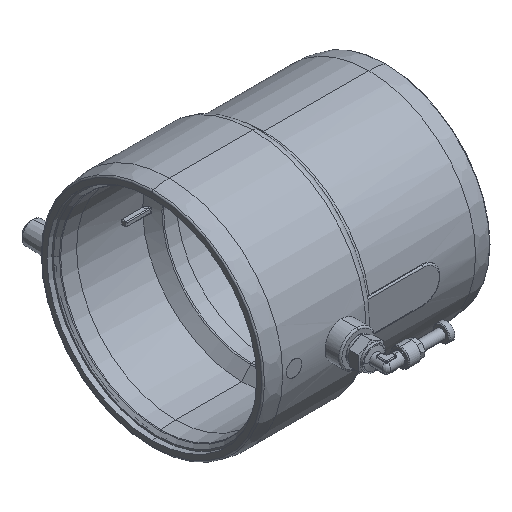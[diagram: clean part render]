
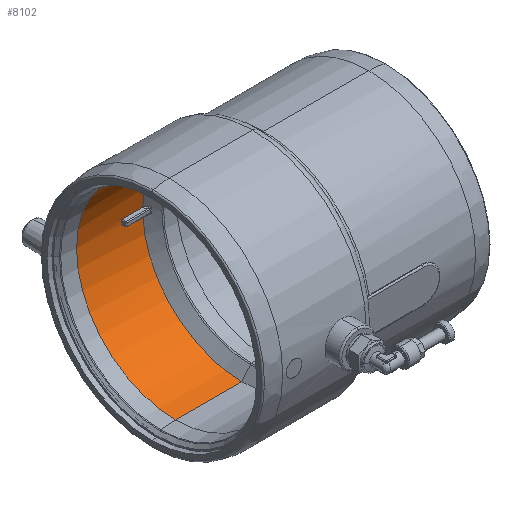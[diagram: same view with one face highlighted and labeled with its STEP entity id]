
A CAD part, isometric view. The second image highlights one B-rep face of the part: STEP entity #8102.
In plain terms, the highlighted cylindrical face has radius 62.85 mm (diameter 125.7 mm), a partial arc.
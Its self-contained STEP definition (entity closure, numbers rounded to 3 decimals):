
#847 = CARTESIAN_POINT ( 'NONE',  ( -34.102, 62.842, -1. ) ) ;
#1153 = AXIS2_PLACEMENT_3D ( 'NONE', #14543, #21457, #9324 ) ;
#1158 = CARTESIAN_POINT ( 'NONE',  ( -33.863, 62.833, -1.446 ) ) ;
#1755 = CARTESIAN_POINT ( 'NONE',  ( -34.048, 62.837, 1.261 ) ) ;
#1910 = CARTESIAN_POINT ( 'NONE',  ( -34.102, 62.842, 1. ) ) ;
#1919 = AXIS2_PLACEMENT_3D ( 'NONE', #18384, #30481, #8771 ) ;
#1984 = CARTESIAN_POINT ( 'NONE',  ( -34.102, 62.842, -1. ) ) ;
#2382 = ORIENTED_EDGE ( 'NONE', *, *, #18978, .T. ) ;
#2450 = EDGE_CURVE ( 'NONE', #16332, #21116, #20752, .T. ) ;
#2506 = DIRECTION ( 'NONE',  ( 0., 0., 1. ) ) ;
#2746 = CARTESIAN_POINT ( 'NONE',  ( -21.176, 62.832, -1.5 ) ) ;
#2775 = CARTESIAN_POINT ( 'NONE',  ( -33.602, 62.832, 1.5 ) ) ;
#2841 = CARTESIAN_POINT ( 'NONE',  ( -20.779, 62.826, 1.726 ) ) ;
#2991 = CARTESIAN_POINT ( 'NONE',  ( -20.675, 62.82, 1.933 ) ) ;
#3146 = CARTESIAN_POINT ( 'NONE',  ( -21.176, 62.832, 1.5 ) ) ;
#3195 = B_SPLINE_CURVE_WITH_KNOTS ( 'NONE', 3,
 ( #6841, #21673, #9693, #29682, #7966, #24501, #2746, #22148 ),
 .UNSPECIFIED., .F., .F.,
 ( 4, 2, 2, 4 ),
 ( 0., 0., 0., 0.001 ),
 .UNSPECIFIED. ) ;
#3607 = VERTEX_POINT ( 'NONE', #2775 ) ;
#5025 = CARTESIAN_POINT ( 'NONE',  ( -21.33, 62.832, 1.5 ) ) ;
#5191 = CARTESIAN_POINT ( 'NONE',  ( -21.024, 62.831, 1.541 ) ) ;
#5680 = FACE_OUTER_BOUND ( 'NONE', #17293, .T. ) ;
#5692 = CARTESIAN_POINT ( 'NONE',  ( -34.102, 62.832, 1.5 ) ) ;
#5835 = B_SPLINE_CURVE_WITH_KNOTS ( 'NONE', 3,
 ( #1910, #13918, #1755, #8291, #27330, #6787 ),
 .UNSPECIFIED., .F., .F.,
 ( 4, 2, 4 ),
 ( 0., 0., 0.001 ),
 .UNSPECIFIED. ) ;
#6787 = CARTESIAN_POINT ( 'NONE',  ( -33.602, 62.832, 1.5 ) ) ;
#6841 = CARTESIAN_POINT ( 'NONE',  ( -20.675, 62.818, -2.01 ) ) ;
#6905 = CARTESIAN_POINT ( 'NONE',  ( -20.675, 62.818, -2.01 ) ) ;
#7681 = AXIS2_PLACEMENT_3D ( 'NONE', #30942, #16620, #9224 ) ;
#7707 = VERTEX_POINT ( 'NONE', #15228 ) ;
#7966 = CARTESIAN_POINT ( 'NONE',  ( -20.834, 62.828, -1.672 ) ) ;
#8072 = DIRECTION ( 'NONE',  ( 0., 0., 1. ) ) ;
#8102 = ADVANCED_FACE ( 'NONE', ( #5680 ), #22405, .F. ) ;
#8291 = CARTESIAN_POINT ( 'NONE',  ( -33.863, 62.833, 1.446 ) ) ;
#8580 = ORIENTED_EDGE ( 'NONE', *, *, #29696, .T. ) ;
#8771 = DIRECTION ( 'NONE',  ( 0., 0., 1. ) ) ;
#9171 = ORIENTED_EDGE ( 'NONE', *, *, #24801, .F. ) ;
#9205 = ORIENTED_EDGE ( 'NONE', *, *, #19954, .T. ) ;
#9224 = DIRECTION ( 'NONE',  ( 0., 0., -1. ) ) ;
#9324 = DIRECTION ( 'NONE',  ( 0., 0., 1. ) ) ;
#9602 = CARTESIAN_POINT ( 'NONE',  ( -20.675, 0., 62.85 ) ) ;
#9691 = DIRECTION ( 'NONE',  ( -1., 0., 0. ) ) ;
#9693 = CARTESIAN_POINT ( 'NONE',  ( -20.699, 62.823, -1.857 ) ) ;
#10043 = ORIENTED_EDGE ( 'NONE', *, *, #27522, .T. ) ;
#10188 = VERTEX_POINT ( 'NONE', #6905 ) ;
#10233 = CIRCLE ( 'NONE', #1153, 62.85 ) ;
#10243 = CARTESIAN_POINT ( 'NONE',  ( -21.33, 62.832, 1.5 ) ) ;
#10253 = VERTEX_POINT ( 'NONE', #14987 ) ;
#10487 = VECTOR ( 'NONE', #27589, 1000. ) ;
#11150 = CARTESIAN_POINT ( 'NONE',  ( -107.602, 0., -62.85 ) ) ;
#11700 = ORIENTED_EDGE ( 'NONE', *, *, #30176, .T. ) ;
#12375 = CARTESIAN_POINT ( 'NONE',  ( -33.734, 62.832, -1.5 ) ) ;
#12730 = CARTESIAN_POINT ( 'NONE',  ( -62.602, 0., 62.85 ) ) ;
#13155 = CARTESIAN_POINT ( 'NONE',  ( -34.102, 62.84, -1.132 ) ) ;
#13163 = AXIS2_PLACEMENT_3D ( 'NONE', #19234, #24101, #2506 ) ;
#13483 = CARTESIAN_POINT ( 'NONE',  ( -62.602, 0., -62.85 ) ) ;
#13875 = VECTOR ( 'NONE', #9691, 1000. ) ;
#13918 = CARTESIAN_POINT ( 'NONE',  ( -34.102, 62.84, 1.132 ) ) ;
#14543 = CARTESIAN_POINT ( 'NONE',  ( -20.675, 0., 0. ) ) ;
#14616 = ORIENTED_EDGE ( 'NONE', *, *, #24383, .F. ) ;
#14763 = CARTESIAN_POINT ( 'NONE',  ( -33.602, 62.832, -1.5 ) ) ;
#14859 = CARTESIAN_POINT ( 'NONE',  ( -20.834, 62.828, 1.671 ) ) ;
#14987 = CARTESIAN_POINT ( 'NONE',  ( -21.33, 62.832, -1.5 ) ) ;
#15228 = CARTESIAN_POINT ( 'NONE',  ( -34.102, 62.842, 1. ) ) ;
#15516 = VERTEX_POINT ( 'NONE', #27595 ) ;
#15559 = EDGE_CURVE ( 'NONE', #10188, #16332, #10233, .T. ) ;
#15597 = ORIENTED_EDGE ( 'NONE', *, *, #2450, .F. ) ;
#15734 = EDGE_CURVE ( 'NONE', #23653, #22517, #19139, .T. ) ;
#16123 = VERTEX_POINT ( 'NONE', #1984 ) ;
#16139 = VECTOR ( 'NONE', #22417, 1000. ) ;
#16332 = VERTEX_POINT ( 'NONE', #24208 ) ;
#16477 = VERTEX_POINT ( 'NONE', #9602 ) ;
#16620 = DIRECTION ( 'NONE',  ( 1., 0., 0. ) ) ;
#17293 = EDGE_LOOP ( 'NONE', ( #15597, #28674, #10043, #14616, #9205, #8580, #26970, #11700, #28321, #9171, #2382, #25492 ) ) ;
#17895 = CARTESIAN_POINT ( 'NONE',  ( -34.048, 62.837, -1.261 ) ) ;
#18276 = EDGE_CURVE ( 'NONE', #7707, #3607, #5835, .T. ) ;
#18312 = VECTOR ( 'NONE', #20903, 1000. ) ;
#18384 = CARTESIAN_POINT ( 'NONE',  ( -20.675, 0., 0. ) ) ;
#18978 = EDGE_CURVE ( 'NONE', #16477, #23966, #21988, .T. ) ;
#19038 = CIRCLE ( 'NONE', #1919, 62.85 ) ;
#19139 = B_SPLINE_CURVE_WITH_KNOTS ( 'NONE', 3,
 ( #5025, #3146, #5191, #14859, #2841, #22084, #2991, #24753 ),
 .UNSPECIFIED., .F., .F.,
 ( 4, 2, 2, 4 ),
 ( 0., 0., 0.001, 0.001 ),
 .UNSPECIFIED. ) ;
#19234 = CARTESIAN_POINT ( 'NONE',  ( -62.602, 0., 0. ) ) ;
#19245 = CIRCLE ( 'NONE', #7681, 62.85 ) ;
#19954 = EDGE_CURVE ( 'NONE', #15516, #16123, #30531, .T. ) ;
#20045 = CARTESIAN_POINT ( 'NONE',  ( -107.602, 0., 0. ) ) ;
#20752 = LINE ( 'NONE', #11150, #18312 ) ;
#20903 = DIRECTION ( 'NONE',  ( -1., 0., 0. ) ) ;
#21116 = VERTEX_POINT ( 'NONE', #13483 ) ;
#21208 = CIRCLE ( 'NONE', #13163, 62.85 ) ;
#21457 = DIRECTION ( 'NONE',  ( -1., 0., 0. ) ) ;
#21673 = CARTESIAN_POINT ( 'NONE',  ( -20.675, 62.82, -1.933 ) ) ;
#21828 = CARTESIAN_POINT ( 'NONE',  ( -107.602, 0., 62.85 ) ) ;
#21988 = LINE ( 'NONE', #21828, #13875 ) ;
#22084 = CARTESIAN_POINT ( 'NONE',  ( -20.699, 62.823, 1.857 ) ) ;
#22148 = CARTESIAN_POINT ( 'NONE',  ( -21.33, 62.832, -1.5 ) ) ;
#22405 = CYLINDRICAL_SURFACE ( 'NONE', #28550, 62.85 ) ;
#22417 = DIRECTION ( 'NONE',  ( 1., 0., 0. ) ) ;
#22517 = VERTEX_POINT ( 'NONE', #29494 ) ;
#22736 = LINE ( 'NONE', #25254, #10487 ) ;
#23653 = VERTEX_POINT ( 'NONE', #10243 ) ;
#23966 = VERTEX_POINT ( 'NONE', #12730 ) ;
#24101 = DIRECTION ( 'NONE',  ( -1., 0., 0. ) ) ;
#24208 = CARTESIAN_POINT ( 'NONE',  ( -20.675, 0., -62.85 ) ) ;
#24383 = EDGE_CURVE ( 'NONE', #15516, #10253, #22736, .T. ) ;
#24501 = CARTESIAN_POINT ( 'NONE',  ( -21.023, 62.831, -1.541 ) ) ;
#24614 = DIRECTION ( 'NONE',  ( -1., 0., 0. ) ) ;
#24753 = CARTESIAN_POINT ( 'NONE',  ( -20.675, 62.818, 2.01 ) ) ;
#24780 = LINE ( 'NONE', #5692, #16139 ) ;
#24801 = EDGE_CURVE ( 'NONE', #16477, #22517, #19038, .T. ) ;
#25254 = CARTESIAN_POINT ( 'NONE',  ( -34.102, 62.832, -1.5 ) ) ;
#25492 = ORIENTED_EDGE ( 'NONE', *, *, #28652, .T. ) ;
#26970 = ORIENTED_EDGE ( 'NONE', *, *, #18276, .T. ) ;
#27330 = CARTESIAN_POINT ( 'NONE',  ( -33.734, 62.832, 1.5 ) ) ;
#27522 = EDGE_CURVE ( 'NONE', #10188, #10253, #3195, .T. ) ;
#27589 = DIRECTION ( 'NONE',  ( 1., 0., 0. ) ) ;
#27595 = CARTESIAN_POINT ( 'NONE',  ( -33.602, 62.832, -1.5 ) ) ;
#28321 = ORIENTED_EDGE ( 'NONE', *, *, #15734, .T. ) ;
#28550 = AXIS2_PLACEMENT_3D ( 'NONE', #20045, #24614, #8072 ) ;
#28652 = EDGE_CURVE ( 'NONE', #23966, #21116, #21208, .T. ) ;
#28674 = ORIENTED_EDGE ( 'NONE', *, *, #15559, .F. ) ;
#29494 = CARTESIAN_POINT ( 'NONE',  ( -20.675, 62.818, 2.01 ) ) ;
#29682 = CARTESIAN_POINT ( 'NONE',  ( -20.778, 62.826, -1.727 ) ) ;
#29696 = EDGE_CURVE ( 'NONE', #16123, #7707, #19245, .T. ) ;
#30176 = EDGE_CURVE ( 'NONE', #3607, #23653, #24780, .T. ) ;
#30481 = DIRECTION ( 'NONE',  ( -1., 0., 0. ) ) ;
#30531 = B_SPLINE_CURVE_WITH_KNOTS ( 'NONE', 3,
 ( #14763, #12375, #1158, #17895, #13155, #847 ),
 .UNSPECIFIED., .F., .F.,
 ( 4, 2, 4 ),
 ( 0., 0., 0.001 ),
 .UNSPECIFIED. ) ;
#30942 = CARTESIAN_POINT ( 'NONE',  ( -34.102, 0., 0. ) ) ;
